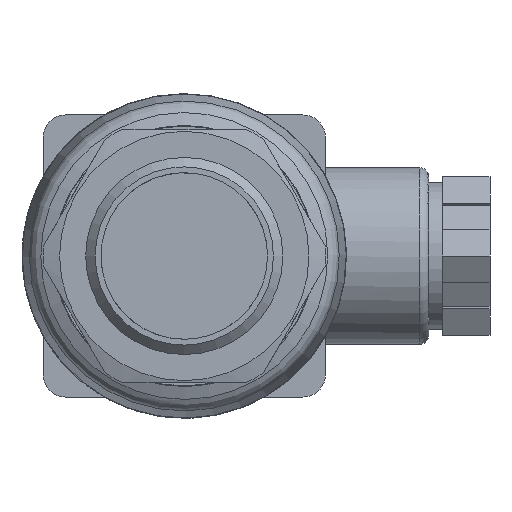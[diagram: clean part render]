
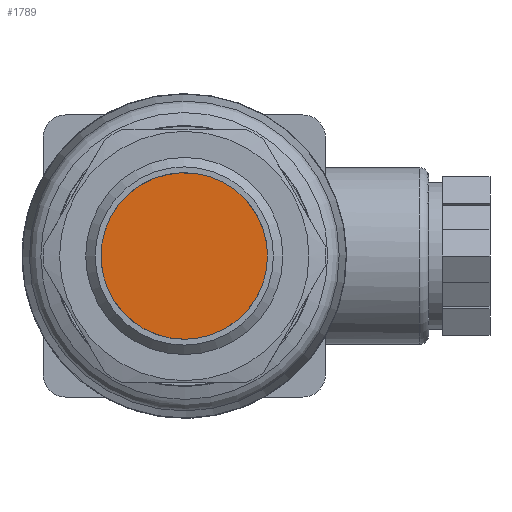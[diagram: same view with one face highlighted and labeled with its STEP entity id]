
A CAD part, left-side view. The second image highlights one B-rep face of the part: STEP entity #1789.
In plain terms, the highlighted planar face has unit normal (-1, 0, 0).
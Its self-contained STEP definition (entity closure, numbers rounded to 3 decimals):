
#178=FACE_OUTER_BOUND('',#297,.T.);
#297=EDGE_LOOP('',(#1452));
#677=CIRCLE('',#1942,8.85);
#820=VERTEX_POINT('',#2882);
#1039=EDGE_CURVE('',#820,#820,#677,.T.);
#1452=ORIENTED_EDGE('',*,*,#1039,.T.);
#1601=PLANE('',#1941);
#1789=ADVANCED_FACE('',(#178),#1601,.T.);
#1941=AXIS2_PLACEMENT_3D('',#2881,#2377,#2378);
#1942=AXIS2_PLACEMENT_3D('',#2883,#2379,#2380);
#2377=DIRECTION('center_axis',(-1.,0.,0.));
#2378=DIRECTION('ref_axis',(0.,-0.889,-0.458));
#2379=DIRECTION('center_axis',(-1.,0.,0.));
#2380=DIRECTION('ref_axis',(0.,-0.458,0.889));
#2881=CARTESIAN_POINT('Origin',(-30.03,-3.921,7.615));
#2882=CARTESIAN_POINT('',(-30.03,-4.052,7.868));
#2883=CARTESIAN_POINT('Origin',(-30.03,0.,0.));
